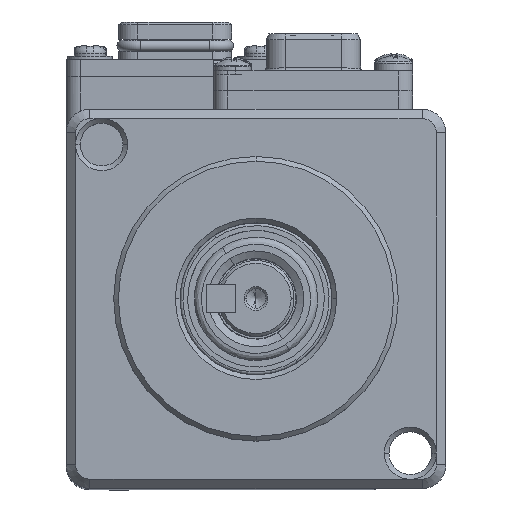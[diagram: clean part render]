
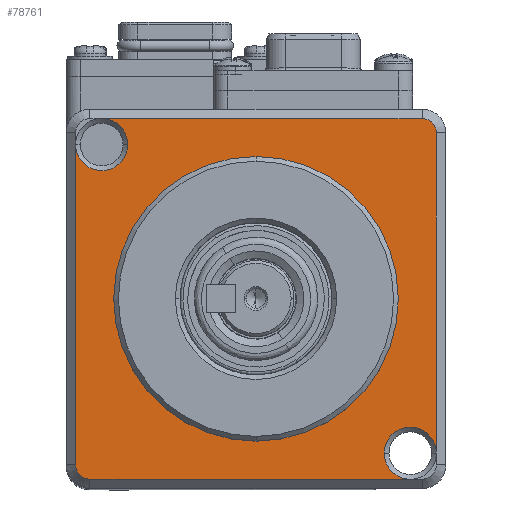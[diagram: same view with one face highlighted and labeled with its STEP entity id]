
A CAD part, top view. The second image highlights one B-rep face of the part: STEP entity #78761.
In plain terms, the highlighted planar face has unit normal (0, 0, 1).
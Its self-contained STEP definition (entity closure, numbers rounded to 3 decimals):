
#62 = VERTEX_POINT ( 'NONE', #58728 ) ;
#4844 = VECTOR ( 'NONE', #64638, 1000. ) ;
#7239 = CARTESIAN_POINT ( 'NONE',  ( -15., 0., 5.5 ) ) ;
#9184 = FACE_BOUND ( 'NONE', #50931, .T. ) ;
#11051 = AXIS2_PLACEMENT_3D ( 'NONE', #86855, #45978, #13133 ) ;
#11115 = DIRECTION ( 'NONE',  ( 0., 0., -1. ) ) ;
#11947 = AXIS2_PLACEMENT_3D ( 'NONE', #23089, #78949, #55520 ) ;
#12293 = DIRECTION ( 'NONE',  ( 0., 0., -1. ) ) ;
#12938 = VERTEX_POINT ( 'NONE', #7239 ) ;
#12979 = AXIS2_PLACEMENT_3D ( 'NONE', #87366, #45581, #56374 ) ;
#13133 = DIRECTION ( 'NONE',  ( 1., 0., 0. ) ) ;
#14894 = CARTESIAN_POINT ( 'NONE',  ( 0., 19., 5.5 ) ) ;
#18138 = DIRECTION ( 'NONE',  ( 0., 0., -1. ) ) ;
#18251 = VECTOR ( 'NONE', #93758, 1000. ) ;
#18440 = VERTEX_POINT ( 'NONE', #50422 ) ;
#18443 = EDGE_CURVE ( 'NONE', #69032, #12938, #93612, .T. ) ;
#20356 = CARTESIAN_POINT ( 'NONE',  ( -16.263, 16.263, 5.5 ) ) ;
#23089 = CARTESIAN_POINT ( 'NONE',  ( 0., 0., 5.5 ) ) ;
#23734 = CARTESIAN_POINT ( 'NONE',  ( 19., 0., 5.5 ) ) ;
#24345 = CIRCLE ( 'NONE', #11051, 2.75 ) ;
#24660 = CARTESIAN_POINT ( 'NONE',  ( -17.5, -19., 5.5 ) ) ;
#24740 = LINE ( 'NONE', #23734, #53344 ) ;
#26589 = EDGE_LOOP ( 'NONE', ( #115869, #112044, #61500, #47932, #93878, #127044, #108846, #90093, #39651, #33025 ) ) ;
#26665 = CIRCLE ( 'NONE', #94411, 15. ) ;
#27927 = VERTEX_POINT ( 'NONE', #24660 ) ;
#29430 = CARTESIAN_POINT ( 'NONE',  ( -19., 0., 5.5 ) ) ;
#33025 = ORIENTED_EDGE ( 'NONE', *, *, #61354, .F. ) ;
#34223 = CARTESIAN_POINT ( 'NONE',  ( 13.513, -16.263, 5.5 ) ) ;
#34736 = CARTESIAN_POINT ( 'NONE',  ( 16.263, -16.263, 5.5 ) ) ;
#35645 = CIRCLE ( 'NONE', #81781, 2.75 ) ;
#39651 = ORIENTED_EDGE ( 'NONE', *, *, #69747, .F. ) ;
#39739 = ORIENTED_EDGE ( 'NONE', *, *, #18443, .T. ) ;
#39981 = CARTESIAN_POINT ( 'NONE',  ( 19., 17.5, 5.5 ) ) ;
#40059 = CARTESIAN_POINT ( 'NONE',  ( 0., 0., 5.5 ) ) ;
#42155 = CARTESIAN_POINT ( 'NONE',  ( 0., 0., 5.5 ) ) ;
#43832 = DIRECTION ( 'NONE',  ( 1., 0., 0. ) ) ;
#45581 = DIRECTION ( 'NONE',  ( 0., 0., -1. ) ) ;
#45978 = DIRECTION ( 'NONE',  ( 0., 0., -1. ) ) ;
#46704 = VERTEX_POINT ( 'NONE', #128174 ) ;
#47932 = ORIENTED_EDGE ( 'NONE', *, *, #85263, .F. ) ;
#48362 = EDGE_CURVE ( 'NONE', #12938, #69032, #26665, .T. ) ;
#49126 = DIRECTION ( 'NONE',  ( 1., 0., 0. ) ) ;
#50422 = CARTESIAN_POINT ( 'NONE',  ( -19., 15.992, 5.5 ) ) ;
#50893 = VECTOR ( 'NONE', #49126, 1000. ) ;
#50931 = EDGE_LOOP ( 'NONE', ( #117039, #39739 ) ) ;
#51124 = DIRECTION ( 'NONE',  ( -1., 0., 0. ) ) ;
#53344 = VECTOR ( 'NONE', #58018, 1000. ) ;
#53359 = CIRCLE ( 'NONE', #94221, 1.5 ) ;
#55520 = DIRECTION ( 'NONE',  ( 1., 0., 0. ) ) ;
#56048 = VERTEX_POINT ( 'NONE', #84413 ) ;
#56374 = DIRECTION ( 'NONE',  ( -1., 0., 0. ) ) ;
#58018 = DIRECTION ( 'NONE',  ( 0., -1., 0. ) ) ;
#58728 = CARTESIAN_POINT ( 'NONE',  ( -19., -17.5, 5.5 ) ) ;
#61354 = EDGE_CURVE ( 'NONE', #46704, #84841, #107967, .T. ) ;
#61500 = ORIENTED_EDGE ( 'NONE', *, *, #99478, .F. ) ;
#61633 = AXIS2_PLACEMENT_3D ( 'NONE', #40059, #106236, #137178 ) ;
#62093 = VERTEX_POINT ( 'NONE', #39981 ) ;
#64092 = DIRECTION ( 'NONE',  ( 0., 0., -1. ) ) ;
#64210 = VERTEX_POINT ( 'NONE', #95222 ) ;
#64638 = DIRECTION ( 'NONE',  ( -1., 0., 0. ) ) ;
#67884 = AXIS2_PLACEMENT_3D ( 'NONE', #34736, #12293, #109854 ) ;
#69032 = VERTEX_POINT ( 'NONE', #135179 ) ;
#69747 = EDGE_CURVE ( 'NONE', #84841, #62093, #53359, .T. ) ;
#71755 = EDGE_CURVE ( 'NONE', #56048, #88933, #24345, .T. ) ;
#75406 = CARTESIAN_POINT ( 'NONE',  ( -16.263, 16.263, 5.5 ) ) ;
#78761 = ADVANCED_FACE ( 'NONE', ( #123374, #9184 ), #97730, .T. ) ;
#78949 = DIRECTION ( 'NONE',  ( 0., 0., 1. ) ) ;
#81781 = AXIS2_PLACEMENT_3D ( 'NONE', #20356, #64092, #43832 ) ;
#82932 = DIRECTION ( 'NONE',  ( -1., 0., 0. ) ) ;
#83465 = DIRECTION ( 'NONE',  ( 0., 0., -1. ) ) ;
#83664 = LINE ( 'NONE', #128912, #4844 ) ;
#83920 = EDGE_CURVE ( 'NONE', #56048, #27927, #83664, .T. ) ;
#84413 = CARTESIAN_POINT ( 'NONE',  ( 15.992, -19., 5.5 ) ) ;
#84841 = VERTEX_POINT ( 'NONE', #133805 ) ;
#85263 = EDGE_CURVE ( 'NONE', #27927, #62, #128176, .T. ) ;
#85324 = EDGE_CURVE ( 'NONE', #88933, #64210, #106324, .T. ) ;
#86173 = DIRECTION ( 'NONE',  ( 1., 0., 0. ) ) ;
#86855 = CARTESIAN_POINT ( 'NONE',  ( 16.263, -16.263, 5.5 ) ) ;
#87366 = CARTESIAN_POINT ( 'NONE',  ( -17.5, -17.5, 5.5 ) ) ;
#88933 = VERTEX_POINT ( 'NONE', #34223 ) ;
#90093 = ORIENTED_EDGE ( 'NONE', *, *, #126673, .F. ) ;
#90489 = LINE ( 'NONE', #29430, #18251 ) ;
#93612 = CIRCLE ( 'NONE', #61633, 15. ) ;
#93758 = DIRECTION ( 'NONE',  ( 0., 1., 0. ) ) ;
#93878 = ORIENTED_EDGE ( 'NONE', *, *, #83920, .F. ) ;
#94221 = AXIS2_PLACEMENT_3D ( 'NONE', #105447, #18138, #82932 ) ;
#94411 = AXIS2_PLACEMENT_3D ( 'NONE', #42155, #83465, #51124 ) ;
#95222 = CARTESIAN_POINT ( 'NONE',  ( 19., -15.992, 5.5 ) ) ;
#97730 = PLANE ( 'NONE',  #11947 ) ;
#99478 = EDGE_CURVE ( 'NONE', #62, #18440, #90489, .T. ) ;
#105447 = CARTESIAN_POINT ( 'NONE',  ( 17.5, 17.5, 5.5 ) ) ;
#106236 = DIRECTION ( 'NONE',  ( 0., 0., -1. ) ) ;
#106324 = CIRCLE ( 'NONE', #67884, 2.75 ) ;
#107967 = LINE ( 'NONE', #14894, #50893 ) ;
#108186 = EDGE_CURVE ( 'NONE', #46704, #127086, #35645, .T. ) ;
#108846 = ORIENTED_EDGE ( 'NONE', *, *, #85324, .T. ) ;
#109854 = DIRECTION ( 'NONE',  ( 1., 0., 0. ) ) ;
#112044 = ORIENTED_EDGE ( 'NONE', *, *, #114786, .T. ) ;
#114786 = EDGE_CURVE ( 'NONE', #127086, #18440, #131419, .T. ) ;
#115869 = ORIENTED_EDGE ( 'NONE', *, *, #108186, .T. ) ;
#117039 = ORIENTED_EDGE ( 'NONE', *, *, #48362, .T. ) ;
#117746 = AXIS2_PLACEMENT_3D ( 'NONE', #75406, #11115, #86173 ) ;
#118944 = CARTESIAN_POINT ( 'NONE',  ( -13.513, 16.263, 5.5 ) ) ;
#123374 = FACE_OUTER_BOUND ( 'NONE', #26589, .T. ) ;
#126673 = EDGE_CURVE ( 'NONE', #62093, #64210, #24740, .T. ) ;
#127044 = ORIENTED_EDGE ( 'NONE', *, *, #71755, .T. ) ;
#127086 = VERTEX_POINT ( 'NONE', #118944 ) ;
#128174 = CARTESIAN_POINT ( 'NONE',  ( -15.992, 19., 5.5 ) ) ;
#128176 = CIRCLE ( 'NONE', #12979, 1.5 ) ;
#128912 = CARTESIAN_POINT ( 'NONE',  ( 0., -19., 5.5 ) ) ;
#131419 = CIRCLE ( 'NONE', #117746, 2.75 ) ;
#133805 = CARTESIAN_POINT ( 'NONE',  ( 17.5, 19., 5.5 ) ) ;
#135179 = CARTESIAN_POINT ( 'NONE',  ( 15., 0., 5.5 ) ) ;
#137178 = DIRECTION ( 'NONE',  ( -1., 0., 0. ) ) ;
